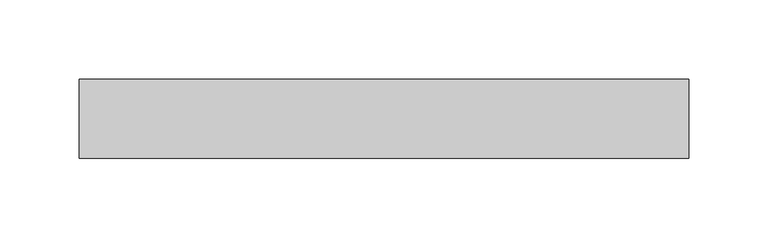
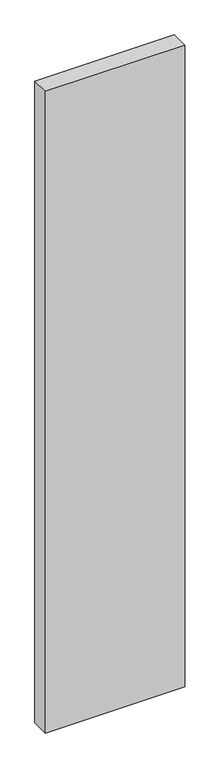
"""IFC4 building model written with IfcOpenShell, lengths in millimetres: plate geometry, Системная панель : Стекло(50мм)."""

from ifc_helpers import new_model, si_unit, origin, origin_with_axes, place, context, project, spatial, polyline, outline, extrude, source, transform, mapped, element, save


def plate_828eb35e(model_context):
    return source(origin(), model_context, "Body", "SweptSolid", [
        extrude(outline(polyline([(192.7252644, -25.0), (-192.7252644, -25.0), (-192.7252644, 25.0), (192.7252644, 25.0), (192.7252644, -25.0)])), origin_with_axes(), (0.0, 0.0, 1.0), 1875.0),
    ])


if __name__ == "__main__":
    model = new_model("IFC4")
    model_context = context("Model", 3, world=origin())
    ifc_project = project(units=[si_unit("LENGTHUNIT", "METRE", prefix="MILLI")], contexts=[model_context])
    site = spatial("IfcSite", under=ifc_project)
    building = spatial("IfcBuilding", under=site)
    placement = place(None, origin())
    plate_shape = plate_828eb35e(model_context)
    element("IfcPlate", 1, ObjectType="Системная панель : Стекло(50мм)", at=placement, inside=building, context=model_context, shape_type="MappedRepresentation", body=[
        mapped(plate_shape, transform((0.0, 0.0, 0.0), x_axis=(1.0, 0.0, 0.0), y_axis=(0.0, 1.0, 0.0), z_axis=(0.0, 0.0, 1.0))),
    ])
    save(model, "model.ifc")
